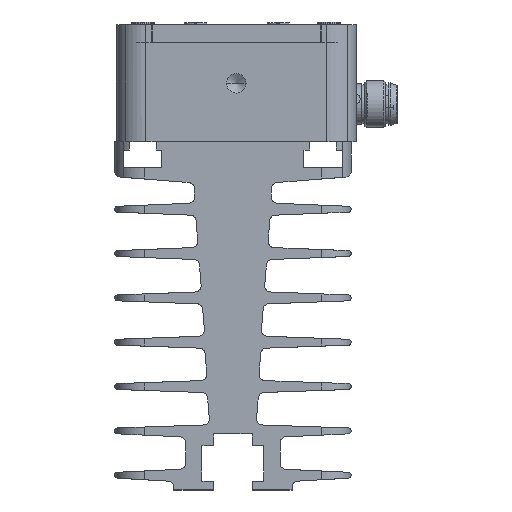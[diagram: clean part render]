
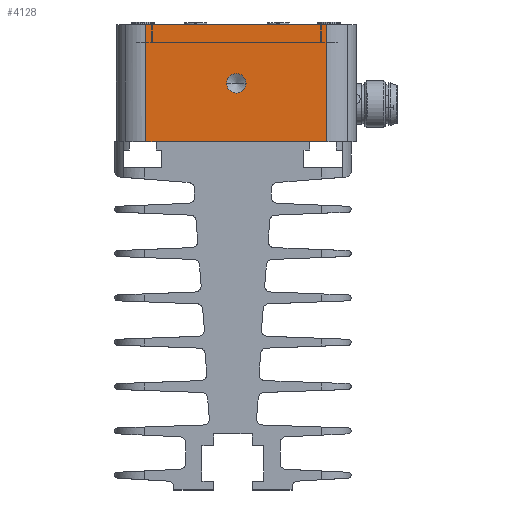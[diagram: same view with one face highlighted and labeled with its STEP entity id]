
A CAD part, left-side view. The second image highlights one B-rep face of the part: STEP entity #4128.
In plain terms, the highlighted planar face has unit normal (-1, 0, 0).
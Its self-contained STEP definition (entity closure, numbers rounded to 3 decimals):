
#4128=ADVANCED_FACE('70:5282',(#9173,#9174),#9175,.T.);
#9173=FACE_OUTER_BOUND('',#15379,.T.);
#9174=FACE_BOUND('',#15380,.T.);
#9175=PLANE('',#15381);
#15379=EDGE_LOOP('',(#28420,#28421,#28422,#28423,#28424,#28425,#28426,#28427));
#15380=EDGE_LOOP('',(#28428,#28429));
#15381=AXIS2_PLACEMENT_3D('',#28430,#28431,#28432);
#28420=ORIENTED_EDGE('',*,*,#37669,.T.);
#28421=ORIENTED_EDGE('',*,*,#38328,.T.);
#28422=ORIENTED_EDGE('',*,*,#40394,.F.);
#28423=ORIENTED_EDGE('',*,*,#40477,.T.);
#28424=ORIENTED_EDGE('',*,*,#36732,.F.);
#28425=ORIENTED_EDGE('',*,*,#38323,.T.);
#28426=ORIENTED_EDGE('',*,*,#37931,.T.);
#28427=ORIENTED_EDGE('',*,*,#37675,.T.);
#28428=ORIENTED_EDGE('',*,*,#40428,.T.);
#28429=ORIENTED_EDGE('',*,*,#36681,.T.);
#28430=CARTESIAN_POINT('',(-12.1,0.0,0.0));
#28431=DIRECTION('',(-1.0,0.0,0.0));
#28432=DIRECTION('',(0.0,0.0,1.0));
#36681=EDGE_CURVE('70:12446',#44219,#44222,#44224,.T.);
#36732=EDGE_CURVE('70:12389',#44296,#44298,#44299,.T.);
#37669=EDGE_CURVE('70:55296',#45943,#45940,#45944,.T.);
#37675=EDGE_CURVE('70:55263',#45953,#45943,#45954,.T.);
#37931=EDGE_CURVE('70:55290',#46359,#45953,#46366,.T.);
#38323=EDGE_CURVE('70:55332',#44296,#46359,#46922,.T.);
#38328=EDGE_CURVE('70:55335',#45940,#46927,#46929,.T.);
#40394=EDGE_CURVE('70:12326',#49753,#46927,#49755,.T.);
#40428=EDGE_CURVE('70:12446',#44222,#44219,#49793,.T.);
#40477=EDGE_CURVE('70:12527',#49753,#44298,#49852,.F.);
#44219=VERTEX_POINT('',#55587);
#44222=VERTEX_POINT('',#55591);
#44224=CIRCLE('',#55594,1.65);
#44296=VERTEX_POINT('',#55686);
#44298=VERTEX_POINT('',#55688);
#44299=LINE('',#55689,#55690);
#45940=VERTEX_POINT('',#58700);
#45943=VERTEX_POINT('',#58704);
#45944=LINE('',#58705,#58706);
#45953=VERTEX_POINT('',#58719);
#45954=LINE('',#58720,#58721);
#46359=VERTEX_POINT('',#59864);
#46366=LINE('',#59875,#59876);
#46922=LINE('',#60663,#60664);
#46927=VERTEX_POINT('',#60671);
#46929=LINE('',#60673,#60674);
#49753=VERTEX_POINT('',#66213);
#49755=LINE('',#66215,#66216);
#49793=CIRCLE('',#66258,1.65);
#49852=LINE('',#66332,#66333);
#55587=CARTESIAN_POINT('',(-12.1,1.65,9.9));
#55591=CARTESIAN_POINT('',(-12.1,-1.65,9.9));
#55594=AXIS2_PLACEMENT_3D('',#74141,#74142,#74143);
#55686=CARTESIAN_POINT('',(-12.1,15.3,0.0));
#55688=CARTESIAN_POINT('',(-12.1,15.3,19.8));
#55689=CARTESIAN_POINT('',(-12.1,15.3,0.0));
#55690=VECTOR('',#74224,0.001);
#58700=CARTESIAN_POINT('',(-12.1,-12.419,0.0));
#58704=CARTESIAN_POINT('',(-12.1,-12.419,0.1));
#58705=CARTESIAN_POINT('',(-12.1,-12.419,-0.7));
#58706=VECTOR('',#75450,1.0);
#58719=CARTESIAN_POINT('',(-12.1,13.581,0.1));
#58720=CARTESIAN_POINT('',(-12.1,0.29,0.1));
#58721=VECTOR('',#75455,1.0);
#59864=CARTESIAN_POINT('',(-12.1,13.581,0.0));
#59875=CARTESIAN_POINT('',(-12.1,13.581,0.05));
#59876=VECTOR('',#75724,1.0);
#60663=CARTESIAN_POINT('',(-12.1,0.0,0.0));
#60664=VECTOR('',#76160,0.001);
#60671=CARTESIAN_POINT('',(-12.1,-15.3,0.0));
#60673=CARTESIAN_POINT('',(-12.1,0.0,0.0));
#60674=VECTOR('',#76169,0.001);
#66213=CARTESIAN_POINT('',(-12.1,-15.3,19.8));
#66215=CARTESIAN_POINT('',(-12.1,-15.3,0.0));
#66216=VECTOR('',#78077,0.001);
#66258=AXIS2_PLACEMENT_3D('',#78100,#78101,#78102);
#66332=CARTESIAN_POINT('',(-12.1,0.0,19.8));
#66333=VECTOR('',#78145,0.001);
#74141=CARTESIAN_POINT('',(-12.1,0.0,9.9));
#74142=DIRECTION('',(1.0,0.0,-0.0));
#74143=DIRECTION('',(0.0,1.0,0.));
#74224=DIRECTION('',(0.0,0.0,1.0));
#75450=DIRECTION('',(0.0,0.,-1.0));
#75455=DIRECTION('',(-0.0,-1.0,0.));
#75724=DIRECTION('',(0.0,0.,1.0));
#76160=DIRECTION('',(-0.0,-1.0,-0.0));
#76169=DIRECTION('',(-0.0,-1.0,-0.0));
#78077=DIRECTION('',(-0.0,-0.0,-1.0));
#78100=CARTESIAN_POINT('',(-12.1,0.0,9.9));
#78101=DIRECTION('',(1.0,0.0,-0.0));
#78102=DIRECTION('',(0.0,1.0,0.));
#78145=DIRECTION('',(-0.0,-1.0,-0.0));
